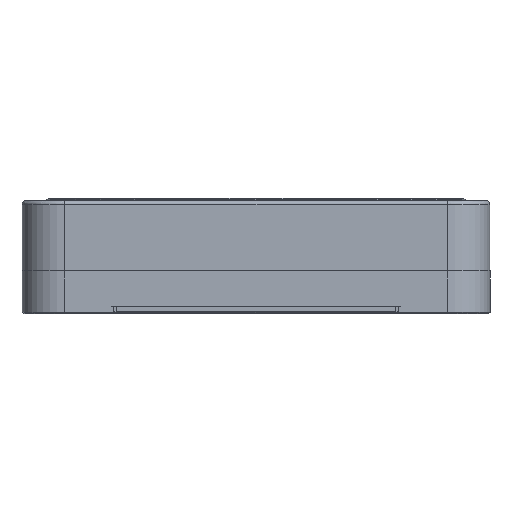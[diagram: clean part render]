
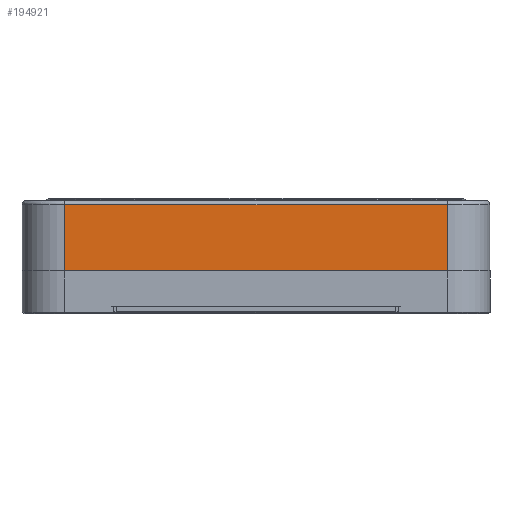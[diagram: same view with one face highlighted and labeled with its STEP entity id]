
A CAD part, left-side view. The second image highlights one B-rep face of the part: STEP entity #194921.
In plain terms, the highlighted planar face has unit normal (-1, 0, 0).
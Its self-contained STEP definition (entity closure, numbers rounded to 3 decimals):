
#17750 = PLANE ( 'NONE',  #128719 ) ;
#18625 = CARTESIAN_POINT ( 'NONE',  ( -79.75, 44.85, -1. ) ) ;
#40947 = LINE ( 'NONE', #120450, #244574 ) ;
#47627 = VERTEX_POINT ( 'NONE', #18625 ) ;
#52697 = CARTESIAN_POINT ( 'NONE',  ( -79.75, -54.85, -1. ) ) ;
#53447 = VECTOR ( 'NONE', #74017, 1000. ) ;
#66150 = LINE ( 'NONE', #52697, #53447 ) ;
#74017 = DIRECTION ( 'NONE',  ( 0., 1., 0. ) ) ;
#81540 = EDGE_CURVE ( 'NONE', #47627, #148650, #94670, .T. ) ;
#88247 = VECTOR ( 'NONE', #210221, 1000. ) ;
#88442 = CARTESIAN_POINT ( 'NONE',  ( -79.75, 44.85, -1. ) ) ;
#90717 = CARTESIAN_POINT ( 'NONE',  ( -79.75, 44.85, 14.5 ) ) ;
#93313 = EDGE_CURVE ( 'NONE', #203414, #202499, #40947, .T. ) ;
#94670 = LINE ( 'NONE', #88442, #88247 ) ;
#99652 = CARTESIAN_POINT ( 'NONE',  ( -79.75, -54.85, -1. ) ) ;
#112167 = VECTOR ( 'NONE', #247105, 1000. ) ;
#112326 = FACE_OUTER_BOUND ( 'NONE', #142625, .T. ) ;
#118559 = LINE ( 'NONE', #185751, #112167 ) ;
#120133 = DIRECTION ( 'NONE',  ( 0., 0., -1. ) ) ;
#120450 = CARTESIAN_POINT ( 'NONE',  ( -79.75, -44.85, -1. ) ) ;
#126753 = ORIENTED_EDGE ( 'NONE', *, *, #229558, .F. ) ;
#128719 = AXIS2_PLACEMENT_3D ( 'NONE', #99652, #241785, #120133 ) ;
#142625 = EDGE_LOOP ( 'NONE', ( #126753, #206092, #168588, #152438 ) ) ;
#148650 = VERTEX_POINT ( 'NONE', #90717 ) ;
#152438 = ORIENTED_EDGE ( 'NONE', *, *, #93313, .F. ) ;
#168588 = ORIENTED_EDGE ( 'NONE', *, *, #252102, .F. ) ;
#185751 = CARTESIAN_POINT ( 'NONE',  ( -79.75, -54.85, 14.5 ) ) ;
#186047 = CARTESIAN_POINT ( 'NONE',  ( -79.75, -44.85, 14.5 ) ) ;
#194921 = ADVANCED_FACE ( 'NONE', ( #112326 ), #17750, .F. ) ;
#202499 = VERTEX_POINT ( 'NONE', #230989 ) ;
#203414 = VERTEX_POINT ( 'NONE', #186047 ) ;
#206092 = ORIENTED_EDGE ( 'NONE', *, *, #81540, .F. ) ;
#210221 = DIRECTION ( 'NONE',  ( 0., 0., 1. ) ) ;
#222566 = DIRECTION ( 'NONE',  ( 0., 0., -1. ) ) ;
#229558 = EDGE_CURVE ( 'NONE', #148650, #203414, #118559, .T. ) ;
#230989 = CARTESIAN_POINT ( 'NONE',  ( -79.75, -44.85, -1. ) ) ;
#241785 = DIRECTION ( 'NONE',  ( 1., 0., 0. ) ) ;
#244574 = VECTOR ( 'NONE', #222566, 1000. ) ;
#247105 = DIRECTION ( 'NONE',  ( 0., -1., 0. ) ) ;
#252102 = EDGE_CURVE ( 'NONE', #202499, #47627, #66150, .T. ) ;
